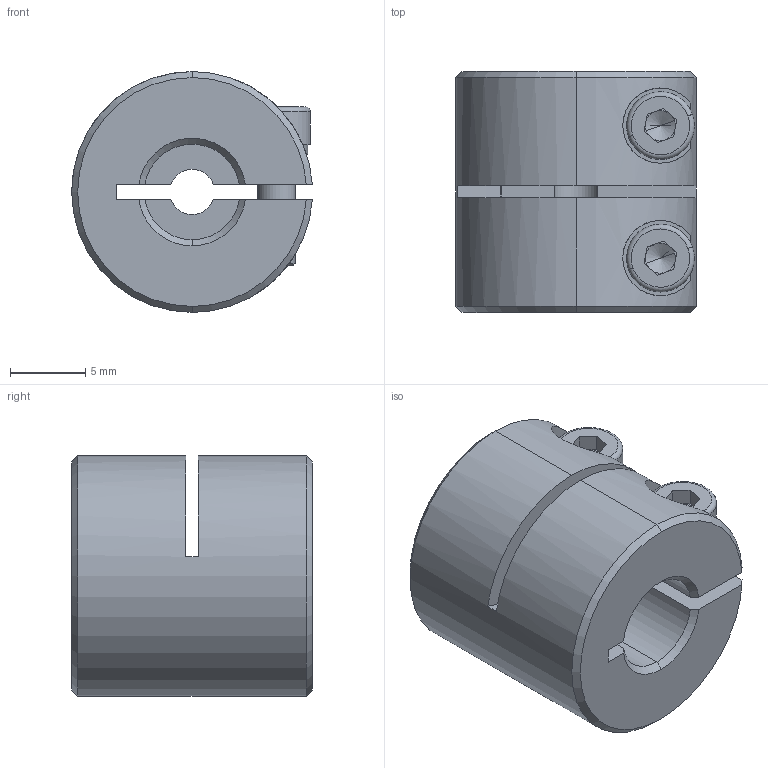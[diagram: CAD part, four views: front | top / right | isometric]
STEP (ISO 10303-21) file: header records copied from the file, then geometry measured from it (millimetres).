
FILE_DESCRIPTION (( 'STEP AP203' ), '1' );
FILE_NAME ('LL-B-D16L16-3-6.35.STEP', '2021-11-03T02:31:36', ( '' ), ( '' ), 'SwSTEP 2.0', 'SolidWorks 2018', '' );
FILE_SCHEMA (( 'CONFIG_CONTROL_DESIGN' ));
Length unit declared in the file: millimetre
Products named in the file (1): LL-B-D16L16-3-6.35
Bounding box: 15.98 x 16 x 16 mm (x, y, z)
Volume: 2685 mm3; surface area: 2034.7 mm2
Topology: 1 solids, 1 shells, 121 faces, 313 edges, 196 vertices
Faces by surface type: plane 52, cylinder 45, cone 20, torus 4
Entity records: 3956 total; most frequent: CARTESIAN_POINT 887, DIRECTION 653, ORIENTED_EDGE 618, EDGE_CURVE 309, AXIS2_PLACEMENT_3D 254, VERTEX_POINT 196, LINE 145, VECTOR 145
